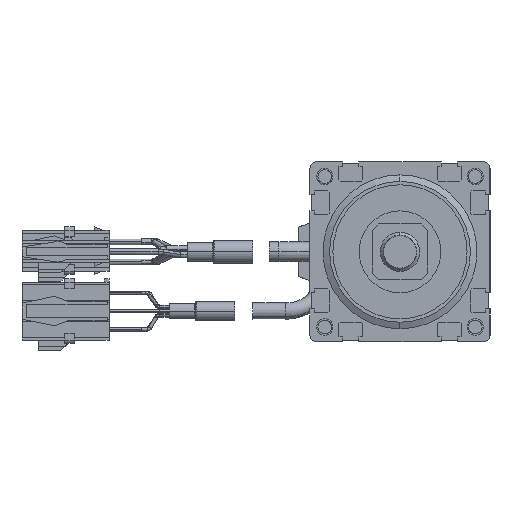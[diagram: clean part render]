
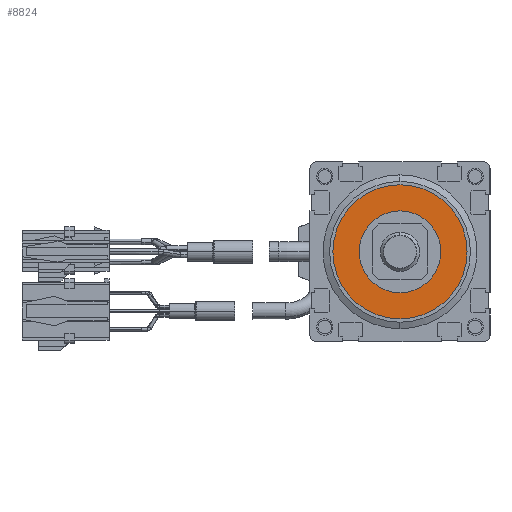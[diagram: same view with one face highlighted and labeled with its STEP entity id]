
A CAD part, left-side view. The second image highlights one B-rep face of the part: STEP entity #8824.
In plain terms, the highlighted planar face has unit normal (-1, 0, 0).
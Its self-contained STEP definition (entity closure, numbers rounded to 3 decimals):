
#2322=CARTESIAN_POINT('',(-191.,0.,0.));
#2323=DIRECTION('',(1.,0.,0.));
#2324=DIRECTION('',(0.,1.,0.));
#2325=AXIS2_PLACEMENT_3D('',#2322,#2323,#2324);
#2327=CARTESIAN_POINT('',(-191.,0.,0.));
#2328=DIRECTION('',(1.,0.,0.));
#2329=DIRECTION('',(0.,-1.,0.));
#2330=AXIS2_PLACEMENT_3D('',#2327,#2328,#2329);
#2332=CARTESIAN_POINT('',(-191.,0.,0.));
#2333=DIRECTION('',(-1.,0.,0.));
#2334=DIRECTION('',(0.,0.,1.));
#2335=AXIS2_PLACEMENT_3D('',#2332,#2333,#2334);
#2337=CARTESIAN_POINT('',(-191.,0.,0.));
#2338=DIRECTION('',(-1.,0.,0.));
#2339=DIRECTION('',(0.,0.,-1.));
#2340=AXIS2_PLACEMENT_3D('',#2337,#2338,#2339);
#4289=CARTESIAN_POINT('',(-191.,20.5,0.));
#4290=VERTEX_POINT('',#4289);
#4291=CARTESIAN_POINT('',(-191.,-20.5,0.));
#4292=VERTEX_POINT('',#4291);
#5455=CARTESIAN_POINT('',(-191.,0.,12.5));
#5456=CARTESIAN_POINT('',(-191.,0.,-12.5));
#5457=VERTEX_POINT('',#5455);
#5458=VERTEX_POINT('',#5456);
#8809=CARTESIAN_POINT('',(-191.,0.,0.));
#8810=DIRECTION('',(1.,0.,0.));
#8811=DIRECTION('',(0.,1.,0.));
#8812=AXIS2_PLACEMENT_3D('',#8809,#8810,#8811);
#8813=PLANE('',#8812);
#8814=ORIENTED_EDGE('',*,*,#8789,.T.);
#8815=ORIENTED_EDGE('',*,*,#8803,.T.);
#8816=EDGE_LOOP('',(#8814,#8815));
#8817=FACE_OUTER_BOUND('',#8816,.F.);
#8819=ORIENTED_EDGE('',*,*,#8818,.T.);
#8821=ORIENTED_EDGE('',*,*,#8820,.T.);
#8822=EDGE_LOOP('',(#8819,#8821));
#8823=FACE_BOUND('',#8822,.F.);
#8824=ADVANCED_FACE('',(#8817,#8823),#8813,.F.);
#2326=CIRCLE('',#2325,20.5);
#2331=CIRCLE('',#2330,20.5);
#2336=CIRCLE('',#2335,12.5);
#2341=CIRCLE('',#2340,12.5);
#8789=EDGE_CURVE('',#4290,#4292,#2326,.T.);
#8803=EDGE_CURVE('',#4292,#4290,#2331,.T.);
#8818=EDGE_CURVE('',#5457,#5458,#2336,.T.);
#8820=EDGE_CURVE('',#5458,#5457,#2341,.T.);
